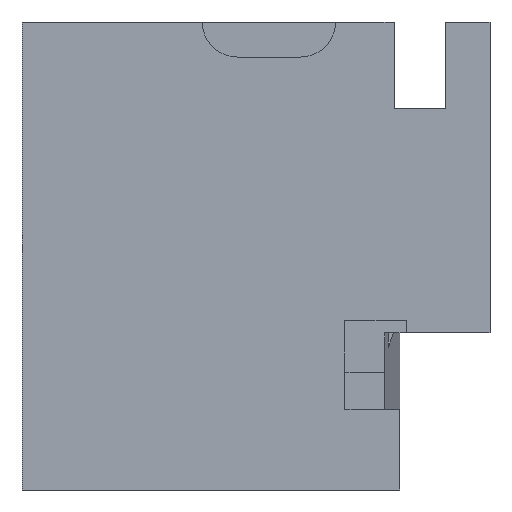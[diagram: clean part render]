
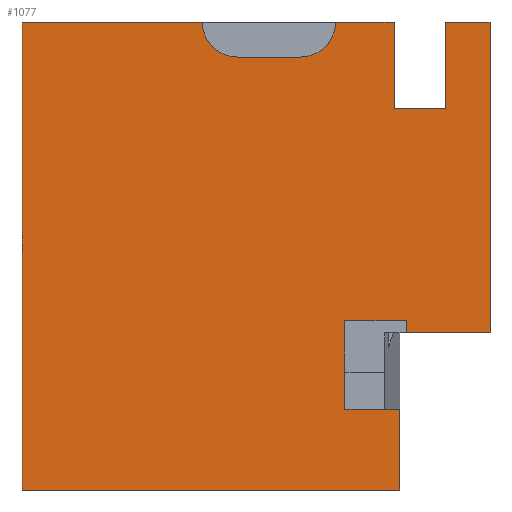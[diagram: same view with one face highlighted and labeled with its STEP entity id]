
A CAD part, left-side view. The second image highlights one B-rep face of the part: STEP entity #1077.
In plain terms, the highlighted planar face has unit normal (-1, 0, 0).
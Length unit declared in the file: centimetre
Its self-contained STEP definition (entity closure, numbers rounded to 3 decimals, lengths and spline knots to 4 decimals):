
#12 = LINE ( 'NONE', #1490, #1040 ) ;
#13 = ORIENTED_EDGE ( 'NONE', *, *, #892, .F. ) ;
#23 = DIRECTION ( 'NONE',  ( 0., 1., 0. ) ) ;
#39 = LINE ( 'NONE', #531, #1033 ) ;
#40 = CARTESIAN_POINT ( 'NONE',  ( 0., 404.9517, 1000. ) ) ;
#55 = VECTOR ( 'NONE', #124, 100. ) ;
#57 = DIRECTION ( 'NONE',  ( 0., -1., 0. ) ) ;
#67 = CARTESIAN_POINT ( 'NONE',  ( 0., 0., 1000. ) ) ;
#69 = VERTEX_POINT ( 'NONE', #475 ) ;
#76 = EDGE_CURVE ( 'NONE', #205, #1489, #1085, .T. ) ;
#79 = LINE ( 'NONE', #564, #1331 ) ;
#80 = ORIENTED_EDGE ( 'NONE', *, *, #688, .F. ) ;
#83 = LINE ( 'NONE', #208, #1353 ) ;
#98 = DIRECTION ( 'NONE',  ( 1., 0., 0. ) ) ;
#124 = DIRECTION ( 'NONE',  ( 0., -1., 0. ) ) ;
#133 = VECTOR ( 'NONE', #1554, 100. ) ;
#162 = EDGE_CURVE ( 'NONE', #344, #677, #12, .T. ) ;
#171 = ORIENTED_EDGE ( 'NONE', *, *, #339, .F. ) ;
#180 = LINE ( 'NONE', #305, #1427 ) ;
#184 = VERTEX_POINT ( 'NONE', #270 ) ;
#193 = ORIENTED_EDGE ( 'NONE', *, *, #1062, .T. ) ;
#201 = EDGE_CURVE ( 'NONE', #1264, #269, #516, .T. ) ;
#205 = VERTEX_POINT ( 'NONE', #636 ) ;
#208 = CARTESIAN_POINT ( 'NONE',  ( 0., 179.2812, 361.7103 ) ) ;
#219 = VERTEX_POINT ( 'NONE', #630 ) ;
#234 = ORIENTED_EDGE ( 'NONE', *, *, #201, .F. ) ;
#264 = EDGE_CURVE ( 'NONE', #205, #949, #896, .T. ) ;
#266 = EDGE_CURVE ( 'NONE', #677, #1413, #987, .T. ) ;
#269 = VERTEX_POINT ( 'NONE', #1148 ) ;
#270 = CARTESIAN_POINT ( 'NONE',  ( 0., 192.5498, 172.0097 ) ) ;
#290 = DIRECTION ( 'NONE',  ( 0., 0., -1. ) ) ;
#300 = EDGE_LOOP ( 'NONE', ( #1277, #171, #13, #234, #1017, #787, #916, #1472, #1087, #80, #1169, #574, #684, #609, #1050, #193, #1294, #1237 ) ) ;
#305 = CARTESIAN_POINT ( 'NONE',  ( 0., 179.2812, 172.0097 ) ) ;
#339 = EDGE_CURVE ( 'NONE', #184, #891, #1019, .T. ) ;
#344 = VERTEX_POINT ( 'NONE', #1240 ) ;
#361 = DIRECTION ( 'NONE',  ( 0., -1., 0. ) ) ;
#390 = DIRECTION ( 'NONE',  ( 0., 0., 1. ) ) ;
#402 = CARTESIAN_POINT ( 'NONE',  ( 0., 404.9517, 925.1143 ) ) ;
#435 = DIRECTION ( 'NONE',  ( 0., 1., 0. ) ) ;
#464 = AXIS2_PLACEMENT_3D ( 'NONE', #40, #1253, #757 ) ;
#468 = LINE ( 'NONE', #727, #55 ) ;
#474 = LINE ( 'NONE', #974, #1429 ) ;
#475 = CARTESIAN_POINT ( 'NONE',  ( 0., 204.9273, 1000. ) ) ;
#507 = CARTESIAN_POINT ( 'NONE',  ( 0., 1000., 1000. ) ) ;
#510 = AXIS2_PLACEMENT_3D ( 'NONE', #797, #681, #1172 ) ;
#516 = LINE ( 'NONE', #1118, #723 ) ;
#531 = CARTESIAN_POINT ( 'NONE',  ( 0., 94.5019, 814.5613 ) ) ;
#558 = VERTEX_POINT ( 'NONE', #858 ) ;
#560 = CARTESIAN_POINT ( 'NONE',  ( 0., 204.9273, 814.5613 ) ) ;
#564 = CARTESIAN_POINT ( 'NONE',  ( 0., 1000., 0. ) ) ;
#567 = CARTESIAN_POINT ( 'NONE',  ( 0., 539.973, 1000. ) ) ;
#574 = ORIENTED_EDGE ( 'NONE', *, *, #1497, .F. ) ;
#609 = ORIENTED_EDGE ( 'NONE', *, *, #266, .F. ) ;
#623 = EDGE_CURVE ( 'NONE', #219, #761, #1352, .T. ) ;
#630 = CARTESIAN_POINT ( 'NONE',  ( 0., 0., 335.6447 ) ) ;
#633 = CARTESIAN_POINT ( 'NONE',  ( 0., 192.5498, 335.6447 ) ) ;
#636 = CARTESIAN_POINT ( 'NONE',  ( 0., 1000., 1000. ) ) ;
#677 = VERTEX_POINT ( 'NONE', #402 ) ;
#681 = DIRECTION ( 'NONE',  ( 1., 0., 0. ) ) ;
#684 = ORIENTED_EDGE ( 'NONE', *, *, #1142, .F. ) ;
#688 = EDGE_CURVE ( 'NONE', #814, #558, #39, .T. ) ;
#690 = AXIS2_PLACEMENT_3D ( 'NONE', #567, #98, #1424 ) ;
#721 = LINE ( 'NONE', #826, #133 ) ;
#723 = VECTOR ( 'NONE', #1244, 100. ) ;
#727 = CARTESIAN_POINT ( 'NONE',  ( 0., 1000., 1000. ) ) ;
#751 = DIRECTION ( 'NONE',  ( 0., 0., -1. ) ) ;
#757 = DIRECTION ( 'NONE',  ( 0., 0., -1. ) ) ;
#761 = VERTEX_POINT ( 'NONE', #786 ) ;
#766 = CARTESIAN_POINT ( 'NONE',  ( 0., 0., 1000. ) ) ;
#775 = VECTOR ( 'NONE', #1153, 100. ) ;
#786 = CARTESIAN_POINT ( 'NONE',  ( 0., 179.2812, 335.6447 ) ) ;
#787 = ORIENTED_EDGE ( 'NONE', *, *, #1272, .F. ) ;
#797 = CARTESIAN_POINT ( 'NONE',  ( 0., 1000., 1000. ) ) ;
#814 = VERTEX_POINT ( 'NONE', #1389 ) ;
#826 = CARTESIAN_POINT ( 'NONE',  ( 0., 1000., 1000. ) ) ;
#853 = EDGE_CURVE ( 'NONE', #906, #219, #1392, .T. ) ;
#858 = CARTESIAN_POINT ( 'NONE',  ( 0., 94.5019, 1000. ) ) ;
#877 = VECTOR ( 'NONE', #751, 100. ) ;
#891 = VERTEX_POINT ( 'NONE', #1134 ) ;
#892 = EDGE_CURVE ( 'NONE', #269, #184, #180, .T. ) ;
#895 = DIRECTION ( 'NONE',  ( 0., 0., 1. ) ) ;
#896 = LINE ( 'NONE', #507, #775 ) ;
#906 = VERTEX_POINT ( 'NONE', #766 ) ;
#916 = ORIENTED_EDGE ( 'NONE', *, *, #623, .F. ) ;
#928 = VERTEX_POINT ( 'NONE', #560 ) ;
#949 = VERTEX_POINT ( 'NONE', #1434 ) ;
#957 = VECTOR ( 'NONE', #23, 100. ) ;
#974 = CARTESIAN_POINT ( 'NONE',  ( 0., 204.9273, 814.5613 ) ) ;
#987 = CIRCLE ( 'NONE', #464, 74.8857 ) ;
#993 = EDGE_CURVE ( 'NONE', #1097, #1264, #83, .T. ) ;
#1002 = DIRECTION ( 'NONE',  ( 0., -1., 0. ) ) ;
#1017 = ORIENTED_EDGE ( 'NONE', *, *, #993, .F. ) ;
#1019 = LINE ( 'NONE', #1520, #877 ) ;
#1033 = VECTOR ( 'NONE', #895, 100. ) ;
#1040 = VECTOR ( 'NONE', #1002, 100. ) ;
#1050 = ORIENTED_EDGE ( 'NONE', *, *, #162, .F. ) ;
#1055 = VECTOR ( 'NONE', #290, 100. ) ;
#1062 = EDGE_CURVE ( 'NONE', #344, #1489, #1231, .T. ) ;
#1073 = LINE ( 'NONE', #1318, #1156 ) ;
#1077 = ADVANCED_FACE ( 'NONE', ( #1546 ), #1568, .F. ) ;
#1085 = LINE ( 'NONE', #1321, #1543 ) ;
#1087 = ORIENTED_EDGE ( 'NONE', *, *, #1215, .F. ) ;
#1097 = VERTEX_POINT ( 'NONE', #1177 ) ;
#1118 = CARTESIAN_POINT ( 'NONE',  ( 0., 310.0383, 172.0097 ) ) ;
#1134 = CARTESIAN_POINT ( 'NONE',  ( 0., 192.5498, 0. ) ) ;
#1142 = EDGE_CURVE ( 'NONE', #1413, #69, #468, .T. ) ;
#1148 = CARTESIAN_POINT ( 'NONE',  ( 0., 310.0383, 172.0097 ) ) ;
#1153 = DIRECTION ( 'NONE',  ( 0., 0., -1. ) ) ;
#1156 = VECTOR ( 'NONE', #361, 100. ) ;
#1169 = ORIENTED_EDGE ( 'NONE', *, *, #1222, .F. ) ;
#1172 = DIRECTION ( 'NONE',  ( 0., 0., -1. ) ) ;
#1174 = DIRECTION ( 'NONE',  ( 0., 0., -1. ) ) ;
#1177 = CARTESIAN_POINT ( 'NONE',  ( 0., 179.2812, 361.7103 ) ) ;
#1181 = DIRECTION ( 'NONE',  ( 0., -1., 0. ) ) ;
#1215 = EDGE_CURVE ( 'NONE', #558, #906, #721, .T. ) ;
#1222 = EDGE_CURVE ( 'NONE', #928, #814, #1073, .T. ) ;
#1231 = CIRCLE ( 'NONE', #690, 74.8857 ) ;
#1237 = ORIENTED_EDGE ( 'NONE', *, *, #264, .T. ) ;
#1240 = CARTESIAN_POINT ( 'NONE',  ( 0., 539.973, 925.1143 ) ) ;
#1244 = DIRECTION ( 'NONE',  ( 0., 0., -1. ) ) ;
#1253 = DIRECTION ( 'NONE',  ( -1., 0., 0. ) ) ;
#1264 = VERTEX_POINT ( 'NONE', #1325 ) ;
#1272 = EDGE_CURVE ( 'NONE', #761, #1097, #1310, .T. ) ;
#1277 = ORIENTED_EDGE ( 'NONE', *, *, #1502, .T. ) ;
#1294 = ORIENTED_EDGE ( 'NONE', *, *, #76, .F. ) ;
#1305 = CARTESIAN_POINT ( 'NONE',  ( 0., 614.8588, 1000. ) ) ;
#1310 = LINE ( 'NONE', #1484, #1384 ) ;
#1314 = DIRECTION ( 'NONE',  ( 0., -1., 0. ) ) ;
#1318 = CARTESIAN_POINT ( 'NONE',  ( 0., 94.5019, 814.5613 ) ) ;
#1321 = CARTESIAN_POINT ( 'NONE',  ( 0., 1000., 1000. ) ) ;
#1325 = CARTESIAN_POINT ( 'NONE',  ( 0., 310.0383, 361.7103 ) ) ;
#1331 = VECTOR ( 'NONE', #1181, 100. ) ;
#1352 = LINE ( 'NONE', #633, #957 ) ;
#1353 = VECTOR ( 'NONE', #435, 100. ) ;
#1384 = VECTOR ( 'NONE', #390, 100. ) ;
#1389 = CARTESIAN_POINT ( 'NONE',  ( 0., 94.5019, 814.5613 ) ) ;
#1392 = LINE ( 'NONE', #67, #1055 ) ;
#1413 = VERTEX_POINT ( 'NONE', #1556 ) ;
#1424 = DIRECTION ( 'NONE',  ( 0., 0., -1. ) ) ;
#1427 = VECTOR ( 'NONE', #57, 100. ) ;
#1429 = VECTOR ( 'NONE', #1174, 100. ) ;
#1434 = CARTESIAN_POINT ( 'NONE',  ( 0., 1000., 0. ) ) ;
#1472 = ORIENTED_EDGE ( 'NONE', *, *, #853, .F. ) ;
#1484 = CARTESIAN_POINT ( 'NONE',  ( 0., 179.2812, 172.0097 ) ) ;
#1489 = VERTEX_POINT ( 'NONE', #1305 ) ;
#1490 = CARTESIAN_POINT ( 'NONE',  ( 0., 404.9517, 925.1143 ) ) ;
#1497 = EDGE_CURVE ( 'NONE', #69, #928, #474, .T. ) ;
#1502 = EDGE_CURVE ( 'NONE', #949, #891, #79, .T. ) ;
#1520 = CARTESIAN_POINT ( 'NONE',  ( 0., 192.5498, 335.6447 ) ) ;
#1543 = VECTOR ( 'NONE', #1314, 100. ) ;
#1546 = FACE_OUTER_BOUND ( 'NONE', #300, .T. ) ;
#1554 = DIRECTION ( 'NONE',  ( 0., -1., 0. ) ) ;
#1556 = CARTESIAN_POINT ( 'NONE',  ( 0., 330.0659, 1000. ) ) ;
#1568 = PLANE ( 'NONE',  #510 ) ;
